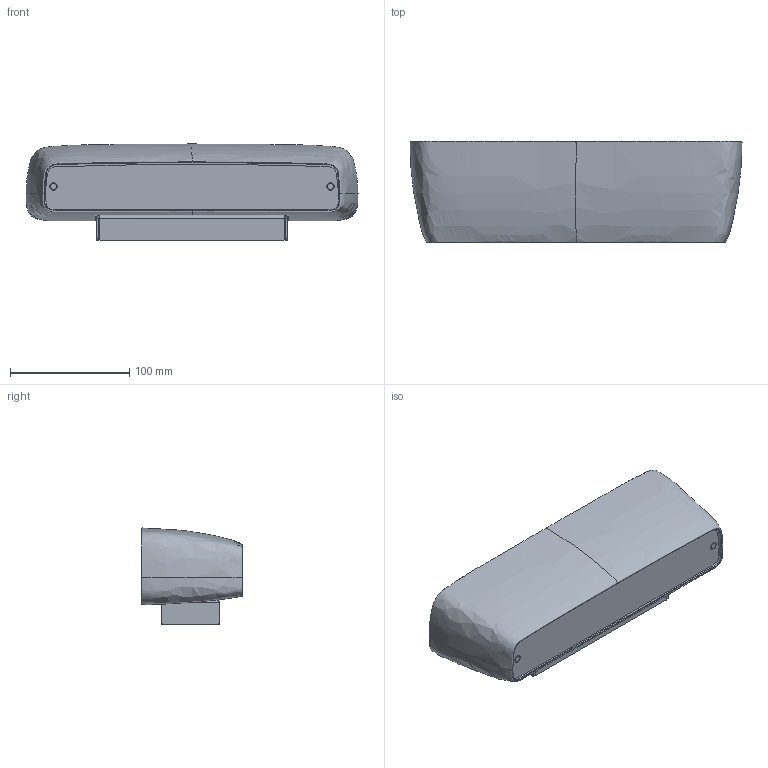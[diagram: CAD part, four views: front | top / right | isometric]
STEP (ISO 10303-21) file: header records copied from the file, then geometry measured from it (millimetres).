
FILE_DESCRIPTION (( 'STEP AP214' ), '1' );
FILE_NAME ('3D_FLACA.STEP', '2018-03-12T17:05:19', ( 'Utente' ), ( '' ), 'SwSTEP 2.0', 'SolidWorks 2016', '' );
FILE_SCHEMA (( 'AUTOMOTIVE_DESIGN' ));
Length unit declared in the file: millimetre
Products named in the file (5): 051FLA700110MARTIMMM-1^3D_FLACA; Group4^3D_FLACA; Group3^3D_FLACA; Group1^3D_FLACA; 3D_FLACA
Assembly tree (4 placements, depth 2):
  3D_FLACA
    Group1^3D_FLACA
    Group3^3D_FLACA
    Group4^3D_FLACA
    051FLA700110MARTIMMM-1^3D_FLACA
Bounding box: 278 x 84.5 x 80.45 mm (x, y, z)
Volume: 350394.8 mm3; surface area: 183686.8 mm2
Topology: 9 solids, 9 shells, 207 faces, 500 edges, 313 vertices
Faces by surface type: plane 71, cylinder 60, bspline 56, cone 20
Entity records: 15622 total; most frequent: CARTESIAN_POINT 10807, ORIENTED_EDGE 1000, DIRECTION 825, EDGE_CURVE 500, AXIS2_PLACEMENT_3D 314, VERTEX_POINT 313, EDGE_LOOP 219, ADVANCED_FACE 207
